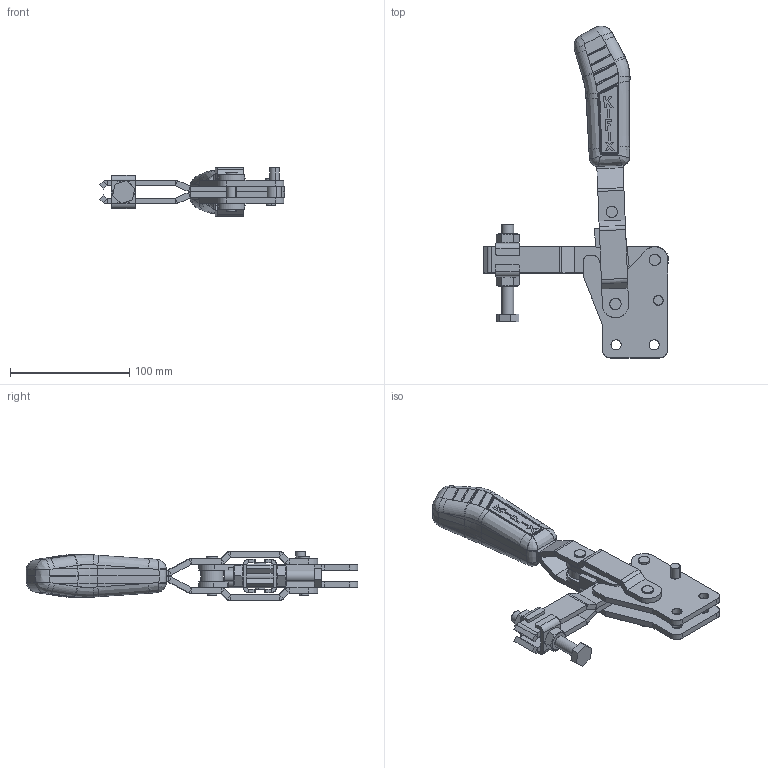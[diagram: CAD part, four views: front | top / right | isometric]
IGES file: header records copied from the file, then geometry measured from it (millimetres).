
Start section: SolidWorks IGES file using analytic representation for surfaces
Global section: file name: C:\Projetos\Grampos\KF-111\KF-111 RB\KF-111 RB.IGS; native system: SolidWorks 2013; preprocessor: SolidWorks 2013; author: Ricardo; date: 140728.160017; units: millimetre
Bounding box: 155.38 x 278.8 x 41 mm (x, y, z)
Surface area: 106668.2 mm2 (no closed solid volume)
Topology: 0 solids, 0 shells, 847 faces, 8932 edges, 8905 vertices
Faces by surface type: bspline 507, revolution 340
